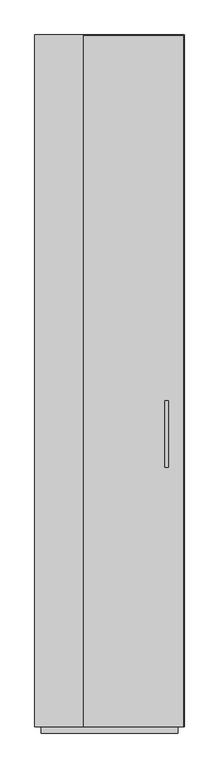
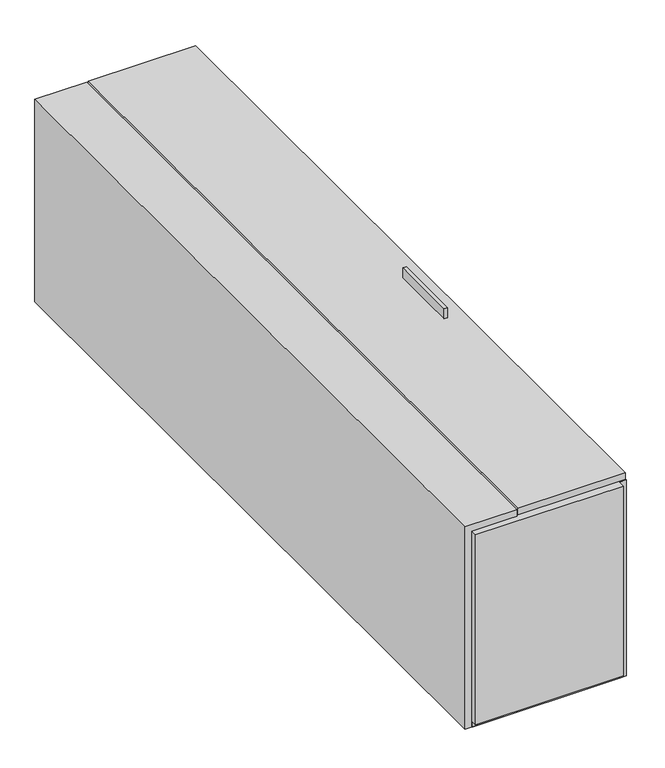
"""IFC4 building model written with IfcOpenShell, lengths in millimetres: proxy geometry, BASYS^OFFICE 7_WARDROBE-LEFT END."""

import ifcopenshell
import ifcopenshell.guid

model = None  # the IFC model being written
_history = None  # IfcOwnerHistory: only IFC2X3 demands one
_inside = {}  # id of a spatial element -> (the spatial element, [elements in it])
_under = {}  # id of a project, library or spatial element -> (it, [spatial elements below it])
_declared = {}  # id of a project -> (the project, [libraries it declares])
_typed = {}  # id of a type object -> (the type object, [elements of that type])
_made_of = {}  # id of a material, layer set ... -> (it, [elements and type objects made of it])


def new_model(schema):
    """Start an empty IFC model of exactly this schema.

    Asked for "IFC4X3", IfcOpenShell would pick the latest addendum, in which some entities
    have other attributes; the version numbers below select the first issue.
    IFC2X3 requires an IfcOwnerHistory on every rooted entity: one is made here for all.
    """
    global model, _history
    if schema == "IFC4X3":
        model = ifcopenshell.file(schema_version=(4, 3, 0, 0))
    else:
        model = ifcopenshell.file(schema=schema)
    _inside.clear()
    _under.clear()
    _declared.clear()
    _typed.clear()
    _made_of.clear()
    _history = None
    if model.schema == "IFC2X3":
        org = make("IfcOrganization", Name="unknown")
        user = make(
            "IfcPersonAndOrganization",
            ThePerson=make("IfcPerson", FamilyName="unknown"),
            TheOrganization=org,
        )
        app = make(
            "IfcApplication",
            ApplicationDeveloper=org,
            Version="unknown",
            ApplicationFullName="unknown",
            ApplicationIdentifier="unknown",
        )
        _history = make(
            "IfcOwnerHistory",
            OwningUser=user,
            OwningApplication=app,
            ChangeAction="ADDED",
            CreationDate=0,
        )
    return model


def make(cls, **values):
    """One entity of the class cls with the attributes given. An attribute that is None is left unset."""
    return model.create_entity(
        cls, **{name: value for name, value in values.items() if value is not None}
    )


def rooted(cls, **values):
    """An entity with a GlobalId (a new one), such as an element, a storey or a relation."""
    return make(cls, GlobalId=ifcopenshell.guid.new(), OwnerHistory=_history, **values)


def si_unit(unit_type, name, prefix=None):
    """IfcSIUnit, for example si_unit("LENGTHUNIT", "METRE", prefix="MILLI")."""
    return make("IfcSIUnit", UnitType=unit_type, Prefix=prefix, Name=name)


def assignment(units):
    """IfcUnitAssignment: the units of a project."""
    return None if units is None else make("IfcUnitAssignment", Units=units)


def point(xyz):
    """IfcCartesianPoint."""
    return None if xyz is None else make("IfcCartesianPoint", Coordinates=xyz)


def direction(xyz):
    """IfcDirection."""
    return None if xyz is None else make("IfcDirection", DirectionRatios=xyz)


def frame(location, z_axis=None, x_axis=None):
    """IfcAxis2Placement3D, a coordinate frame: its origin and axes. An axis left out is left unset."""
    return make(
        "IfcAxis2Placement3D",
        Location=point(location),
        Axis=direction(z_axis),
        RefDirection=direction(x_axis),
    )


def origin():
    """The frame at (0, 0, 0) with its axes left unset."""
    return frame((0.0, 0.0, 0.0))


def origin_with_axes():
    """The frame at (0, 0, 0) with the z axis (0, 0, 1) and the x axis (1, 0, 0) written out."""
    return frame((0.0, 0.0, 0.0), z_axis=(0.0, 0.0, 1.0), x_axis=(1.0, 0.0, 0.0))


def place(relative_to, where):
    """IfcLocalPlacement: puts the frame where relative to a parent placement (None: the world)."""
    return make(
        "IfcLocalPlacement", PlacementRelTo=relative_to, RelativePlacement=where
    )


def context(
    kind, dimensions, precision=None, world=None, true_north=None, identifier=None
):
    """IfcGeometricRepresentationContext, for example the 3D "Model" context."""
    return make(
        "IfcGeometricRepresentationContext",
        ContextIdentifier=identifier,
        ContextType=kind,
        CoordinateSpaceDimension=dimensions,
        Precision=precision,
        WorldCoordinateSystem=world,
        TrueNorth=true_north,
    )


def project(units=None, contexts=None):
    """IfcProject with its units and contexts."""
    return rooted(
        "IfcProject",
        Name="project",
        RepresentationContexts=contexts,
        UnitsInContext=assignment(units),
    )


def spatial(cls, under=None, at=None, **own):
    """A site, building, storey or space (cls), placed at a placement, below another one or the project."""
    s = rooted(cls, ObjectPlacement=at, **own)
    if under is not None:
        _under.setdefault(under.id(), (under, []))[1].append(s)
    return s


def polyline(points):
    """IfcPolyline through the points."""
    return make("IfcPolyline", Points=[point(p) for p in points])


def outline(outer, holes=None, kind="AREA"):
    """IfcArbitraryClosedProfileDef: a profile drawn as a closed curve; with holes, ...WithVoids."""
    if holes is None:
        return make("IfcArbitraryClosedProfileDef", ProfileType=kind, OuterCurve=outer)
    return make(
        "IfcArbitraryProfileDefWithVoids",
        ProfileType=kind,
        OuterCurve=outer,
        InnerCurves=holes,
    )


def extrude(swept, where, along, depth):
    """IfcExtrudedAreaSolid: the profile swept, set in the frame where, extruded along a direction by depth."""
    return make(
        "IfcExtrudedAreaSolid",
        SweptArea=swept,
        Position=where,
        ExtrudedDirection=direction(along),
        Depth=depth,
    )


def shape(context_of_items, identifier, shape_type, items):
    """IfcShapeRepresentation: the items that make up one representation, for example the "Body"."""
    return make(
        "IfcShapeRepresentation",
        ContextOfItems=context_of_items,
        RepresentationIdentifier=identifier,
        RepresentationType=shape_type,
        Items=items,
    )


def source(mapping_origin, context_of_items, identifier, shape_type, items):
    """IfcRepresentationMap: a shape defined once, which mapped items show again and again."""
    return make(
        "IfcRepresentationMap",
        MappingOrigin=mapping_origin,
        MappedRepresentation=shape(context_of_items, identifier, shape_type, items),
    )


def transform(
    local_origin,
    x_axis=None,
    y_axis=None,
    z_axis=None,
    scale=None,
    scale2=None,
    scale3=None,
    uniform=True,
):
    """IfcCartesianTransformationOperator3D, or its non-uniform kind. x_axis, y_axis, z_axis: its Axis1, 2, 3."""
    if uniform:
        return make(
            "IfcCartesianTransformationOperator3D",
            Axis1=direction(x_axis),
            Axis2=direction(y_axis),
            LocalOrigin=point(local_origin),
            Scale=scale,
            Axis3=direction(z_axis),
        )
    return make(
        "IfcCartesianTransformationOperator3DnonUniform",
        Axis1=direction(x_axis),
        Axis2=direction(y_axis),
        LocalOrigin=point(local_origin),
        Scale=scale,
        Axis3=direction(z_axis),
        Scale2=scale2,
        Scale3=scale3,
    )


def mapped(mapping_source, mapping_target):
    """IfcMappedItem: shows the shape of a source again, moved by a transform."""
    return make(
        "IfcMappedItem", MappingSource=mapping_source, MappingTarget=mapping_target
    )


def made_of(thing, what):
    """Note that an element or type object is made of a material, layer set ...; save() writes the relation."""
    if what is not None:
        _made_of.setdefault(what.id(), (what, []))[1].append(thing)
    return thing


def element(
    cls,
    number,
    at=None,
    inside=None,
    cuts=None,
    type_object=None,
    material=None,
    context=None,
    identifier="Body",
    shape_type=None,
    held_by="IfcProductDefinitionShape",
    body=None,
    shapes=None,
    **own,
):
    """One element of the class cls, such as IfcWall. Its Tag is "e" and its number.

    at: its placement. inside: the storey or other place that contains it. cuts: it is an
    opening in that element (IfcRelVoidsElement). A single representation is given by context,
    identifier, shape_type and body (its items); several are given by shapes. held_by: the class
    of the entity that holds the representations. save() writes the other relations.
    """
    e = rooted(cls, Tag="e%d" % number, ObjectPlacement=at, **own)
    if body is not None:
        shapes = [shape(context, identifier, shape_type, body)]
    if shapes is not None:
        e.Representation = make(held_by, Representations=shapes)
    if inside is not None:
        _inside.setdefault(inside.id(), (inside, []))[1].append(e)
    if cuts is not None:
        rooted(
            "IfcRelVoidsElement", RelatingBuildingElement=cuts, RelatedOpeningElement=e
        )
    if type_object is not None:
        _typed.setdefault(type_object.id(), (type_object, []))[1].append(e)
    return made_of(e, material)


def aggregate(whole, parts):
    """IfcRelAggregates: a whole, such as a stair, and the parts it consists of."""
    return rooted("IfcRelAggregates", RelatingObject=whole, RelatedObjects=parts)


def save(model, path):
    """Write the relations noted so far, then the file.

    IfcRelAggregates (storeys below a building ...), IfcRelContainedInSpatialStructure (elements
    in a storey), IfcRelDefinesByType, IfcRelAssociatesMaterial and IfcRelDeclares: one each for
    every whole, place, type object, material and project.
    """
    for whole, parts in _under.values():
        aggregate(whole, parts)
    for where, things in _inside.values():
        rooted(
            "IfcRelContainedInSpatialStructure",
            RelatedElements=things,
            RelatingStructure=where,
        )
    for kind, things in _typed.values():
        rooted("IfcRelDefinesByType", RelatedObjects=things, RelatingType=kind)
    for what, things in _made_of.values():
        rooted("IfcRelAssociatesMaterial", RelatedObjects=things, RelatingMaterial=what)
    for by, libraries in _declared.values():
        rooted("IfcRelDeclares", RelatingContext=by, RelatedDefinitions=libraries)
    model.write(path)


def generic_models_4914e97a(model_context):
    return source(origin(), model_context, "Body", "SweptSolid", [
        extrude(outline(polyline([(409.01875, 1014.8), (409.01875, 812.8), (399.01875, 812.8), (399.01875, 1014.8), (409.01875, 1014.8)])), frame((0.0, 0.0, 609.6), z_axis=(0.0, 0.0, 1.0), x_axis=(1.0, 0.0, 0.0)), (0.0, 0.0, 1.0), 30.0),
        extrude(outline(polyline([(19.05, 2114.55), (19.05, 2133.6), (438.15, 2133.6), (438.15, 2114.55), (19.05, 2114.55)])), frame((0.0, 0.0, 19.05), z_axis=(0.0, 0.0, 1.0), x_axis=(1.0, 0.0, 0.0)), (0.0, 0.0, 1.0), 568.325),
        extrude(outline(polyline([(147.6375, 2133.6), (147.6375, 19.05), (0.0, 19.05), (0.0, 2133.6), (147.6375, 2133.6)])), origin_with_axes(), (0.0, 0.0, 1.0), 606.425),
        extrude(outline(polyline([(454.81875, 2131.21875), (454.81875, 19.05), (150.01875, 19.05), (150.01875, 2131.21875), (454.81875, 2131.21875)])), frame((0.0, 0.0, 590.55), z_axis=(0.0, 0.0, 1.0), x_axis=(1.0, 0.0, 0.0)), (0.0, 0.0, 1.0), 19.05),
        extrude(outline(polyline([(438.15, 38.1), (438.15, 0.0), (19.05, 0.0), (19.05, 38.1), (438.15, 38.1)])), frame((0.0, 0.0, 19.05), z_axis=(0.0, 0.0, 1.0), x_axis=(1.0, 0.0, 0.0)), (0.0, 0.0, 1.0), 568.325),
        extrude(outline(polyline([(438.15, 19.05), (438.15, 2133.6), (457.2, 2133.6), (457.2, 19.05), (438.15, 19.05)])), origin_with_axes(), (0.0, 0.0, 1.0), 587.375),
        extrude(outline(polyline([(438.15, 2133.6), (438.15, 19.05), (19.05, 19.05), (19.05, 2133.6), (438.15, 2133.6)])), origin_with_axes(), (0.0, 0.0, 1.0), 19.05),
    ])


if __name__ == "__main__":
    model = new_model("IFC4")
    model_context = context("Model", 3, world=origin())
    ifc_project = project(units=[si_unit("LENGTHUNIT", "METRE", prefix="MILLI")], contexts=[model_context])
    site = spatial("IfcSite", under=ifc_project)
    building = spatial("IfcBuilding", under=site)
    placement = place(None, origin())
    generic_models_shape = generic_models_4914e97a(model_context)
    element("IfcBuildingElementProxy", 1, Name="BASYS^OFFICE 7_WARDROBE-LEFT END", ObjectType="BASYS^OFFICE 7_WARDROBE-LEFT END", at=placement, inside=building, context=model_context, shape_type="MappedRepresentation", body=[
        mapped(generic_models_shape, transform((0.0, 0.0, 0.0), x_axis=(1.0, 0.0, 0.0), y_axis=(0.0, 1.0, 0.0), z_axis=(0.0, 0.0, 1.0))),
    ])
    save(model, "model.ifc")
